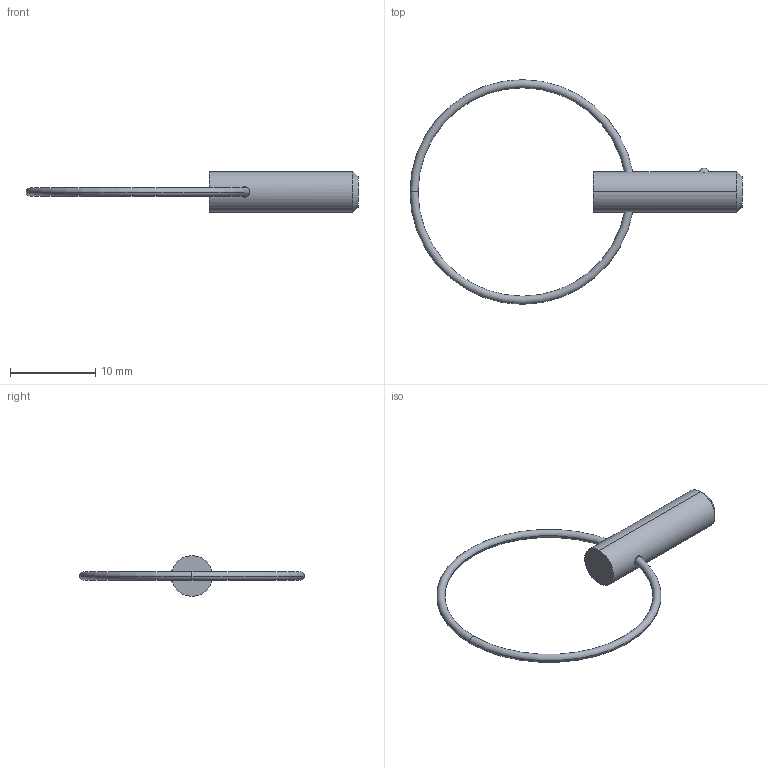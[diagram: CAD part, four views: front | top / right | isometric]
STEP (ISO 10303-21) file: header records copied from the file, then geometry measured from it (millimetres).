
FILE_DESCRIPTION (( 'STEP AP203' ), '1' );
FILE_NAME ('33012.W1803.step', '2024-11-01T14:05:30', ( '' ), ( '' ), 'SwSTEP 2.0', 'SolidWorks 2019', '' );
FILE_SCHEMA (( 'CONFIG_CONTROL_DESIGN' ));
Length unit declared in the file: millimetre
Products named in the file (3): Part1_33012.W1803; 33012.W1803; Part2_33012.W1803
Assembly tree (2 placements, depth 2):
  33012.W1803
    Part1_33012.W1803
    Part2_33012.W1803
Bounding box: 38.96 x 26.35 x 4.76 mm (x, y, z)
Volume: 359.9 mm3; surface area: 545.5 mm2
Topology: 2 solids, 2 shells, 16 faces, 31 edges, 18 vertices
Faces by surface type: torus 8, sphere 2, cone 2, cylinder 2, plane 2
Entity records: 779 total; most frequent: CARTESIAN_POINT 136, DIRECTION 88, ORIENTED_EDGE 62, AXIS2_PLACEMENT_3D 42, EDGE_CURVE 31, PERSON_AND_ORGANIZATION 26, CIRCLE 21, CALENDAR_DATE 19
